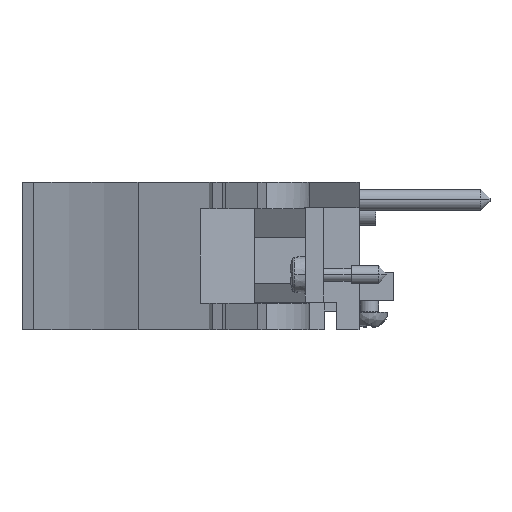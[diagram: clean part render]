
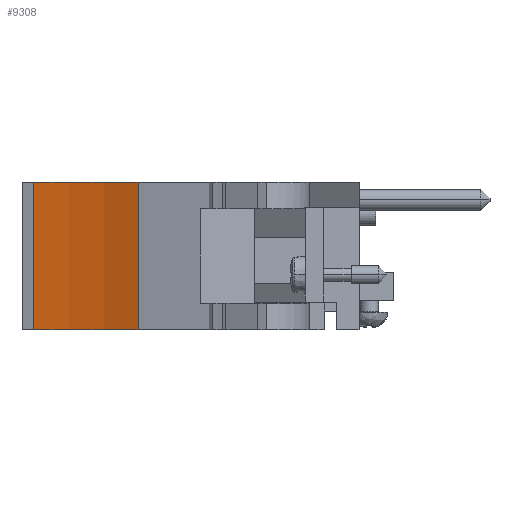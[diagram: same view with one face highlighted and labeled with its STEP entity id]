
A CAD part, front view. The second image highlights one B-rep face of the part: STEP entity #9308.
In plain terms, the highlighted cylindrical face has radius 51.46 mm (diameter 102.919 mm), a partial arc.
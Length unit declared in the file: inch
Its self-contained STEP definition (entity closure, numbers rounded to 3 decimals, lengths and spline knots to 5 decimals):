
#455=CARTESIAN_POINT('',(-1.97633,-5.95079,0.695));
#456=DIRECTION('',(0.,0.,1.));
#457=DIRECTION('',(0.435,0.9,0.));
#458=AXIS2_PLACEMENT_3D('',#455,#456,#457);
#800=CARTESIAN_POINT('',(-1.97633,-5.95079,-0.093));
#801=DIRECTION('',(0.,0.,1.));
#802=DIRECTION('',(0.435,0.9,0.));
#803=AXIS2_PLACEMENT_3D('',#800,#801,#802);
#1018=DIRECTION('',(0.,0.,1.));
#1019=VECTOR('',#1018,0.788);
#1020=CARTESIAN_POINT('',(-1.653,-3.95079,-0.093));
#1021=LINE('',#1020,#1019);
#1026=DIRECTION('',(0.,0.,1.));
#1027=VECTOR('',#1026,0.788);
#1028=CARTESIAN_POINT('',(-1.09503,-4.12655,-0.093));
#1029=LINE('',#1028,#1027);
#6652=CARTESIAN_POINT('',(-1.09503,-4.12655,-0.093));
#6653=CARTESIAN_POINT('',(-1.653,-3.95079,-0.093));
#6654=VERTEX_POINT('',#6652);
#6655=VERTEX_POINT('',#6653);
#6656=CARTESIAN_POINT('',(-1.09503,-4.12655,0.695));
#6657=CARTESIAN_POINT('',(-1.653,-3.95079,0.695));
#6658=VERTEX_POINT('',#6656);
#6659=VERTEX_POINT('',#6657);
#9296=CARTESIAN_POINT('',(-1.97633,-5.95079,0.695));
#9297=DIRECTION('',(0.,0.,1.));
#9298=DIRECTION('',(0.,1.,0.));
#9299=AXIS2_PLACEMENT_3D('',#9296,#9297,#9298);
#9300=CYLINDRICAL_SURFACE('',#9299,2.02597);
#9301=ORIENTED_EDGE('',*,*,#9014,.T.);
#9302=ORIENTED_EDGE('',*,*,#9288,.T.);
#9303=ORIENTED_EDGE('',*,*,#8563,.F.);
#9305=ORIENTED_EDGE('',*,*,#9304,.F.);
#9306=EDGE_LOOP('',(#9301,#9302,#9303,#9305));
#9307=FACE_OUTER_BOUND('',#9306,.F.);
#9308=ADVANCED_FACE('',(#9307),#9300,.F.);
#459=CIRCLE('',#458,2.02597);
#804=CIRCLE('',#803,2.02597);
#8563=EDGE_CURVE('',#6658,#6659,#459,.T.);
#9014=EDGE_CURVE('',#6654,#6655,#804,.T.);
#9288=EDGE_CURVE('',#6655,#6659,#1021,.T.);
#9304=EDGE_CURVE('',#6654,#6658,#1029,.T.);
